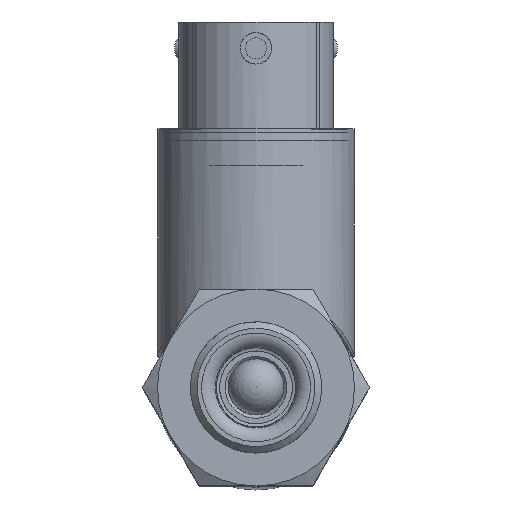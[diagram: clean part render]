
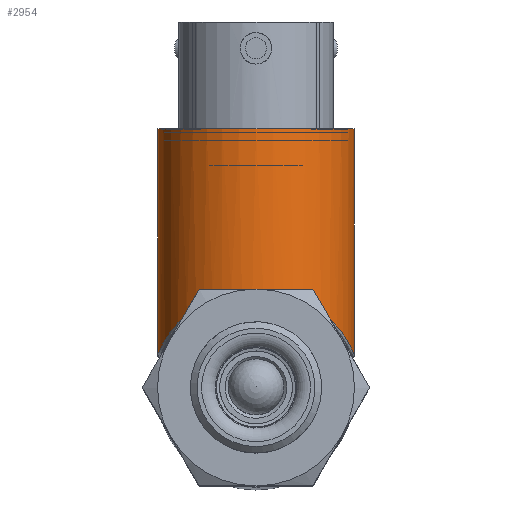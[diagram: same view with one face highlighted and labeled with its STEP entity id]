
A CAD part, top view. The second image highlights one B-rep face of the part: STEP entity #2954.
In plain terms, the highlighted cylindrical face has radius 9.525 mm (diameter 19.05 mm), a full revolution.
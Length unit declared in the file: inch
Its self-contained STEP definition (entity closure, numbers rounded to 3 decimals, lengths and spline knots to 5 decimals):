
#70=B_SPLINE_CURVE_WITH_KNOTS('',3,(#6759,#6760,#6761,#6762,#6763,#6764,
#6765,#6766,#6767,#6768,#6769,#6770,#6771,#6772,#6773,#6774,#6775,#6776,
#6777,#6778,#6779,#6780,#6781,#6782,#6783,#6784,#6785,#6786,#6787,#6788,
#6789),.UNSPECIFIED.,.F.,.F.,(4,1,1,1,1,1,1,1,1,1,1,1,1,1,1,1,1,1,1,1,1,
1,1,1,1,1,1,1,4),(-9.63701,-9.40756,-9.17811,
-8.7192,-8.41326,-8.26029,-8.10733,
-8.03084,-7.95436,-7.80139,-7.49545,
-7.18952,-6.88358,-6.57764,-6.27171,
-5.96577,-5.65983,-5.35389,-5.04796,-4.89499,
-4.81851,-4.74202,-4.58905,-4.43608,
-4.3596,-4.13015,-3.67124,-3.44179,
-3.21234),.UNSPECIFIED.);
#335=FACE_OUTER_BOUND('',#554,.T.);
#554=EDGE_LOOP('',(#2070,#2071,#2072,#2073));
#764=LINE('',#6839,#900);
#900=VECTOR('',#3920,0.375);
#1075=CIRCLE('',#3372,0.375);
#1282=VERTEX_POINT('',#6725);
#1286=VERTEX_POINT('',#6838);
#1573=EDGE_CURVE('',#1282,#1282,#70,.T.);
#1576=EDGE_CURVE('',#1286,#1282,#764,.T.);
#1577=EDGE_CURVE('',#1286,#1286,#1075,.T.);
#2070=ORIENTED_EDGE('',*,*,#1576,.F.);
#2071=ORIENTED_EDGE('',*,*,#1577,.F.);
#2072=ORIENTED_EDGE('',*,*,#1576,.T.);
#2073=ORIENTED_EDGE('',*,*,#1573,.F.);
#2653=CYLINDRICAL_SURFACE('',#3371,0.375);
#2954=ADVANCED_FACE('',(#335),#2653,.T.);
#3371=AXIS2_PLACEMENT_3D('',#6837,#3918,#3919);
#3372=AXIS2_PLACEMENT_3D('',#6840,#3921,#3922);
#3918=DIRECTION('center_axis',(0.,1.,0.));
#3919=DIRECTION('ref_axis',(0.,0.,1.));
#3920=DIRECTION('',(0.,-1.,0.));
#3921=DIRECTION('center_axis',(0.,1.,0.));
#3922=DIRECTION('ref_axis',(0.,0.,1.));
#6725=CARTESIAN_POINT('',(0.,0.3875,-2.84));
#6759=CARTESIAN_POINT('Ctrl Pts',(0.,0.3875,
-2.84));
#6760=CARTESIAN_POINT('Ctrl Pts',(0.03115,0.3875,
-2.84));
#6761=CARTESIAN_POINT('Ctrl Pts',(0.09334,0.38036,
-2.83213));
#6762=CARTESIAN_POINT('Ctrl Pts',(0.20461,0.34111,-2.78842));
#6763=CARTESIAN_POINT('Ctrl Pts',(0.29321,0.27239,-2.71028));
#6764=CARTESIAN_POINT('Ctrl Pts',(0.34371,0.20217,-2.62172));
#6765=CARTESIAN_POINT('Ctrl Pts',(0.36561,0.15994,-2.55434));
#6766=CARTESIAN_POINT('Ctrl Pts',(0.37367,0.14038,-2.50654));
#6767=CARTESIAN_POINT('Ctrl Pts',(0.37544,0.13579,-2.465));
#6768=CARTESIAN_POINT('Ctrl Pts',(0.37368,0.14034,-2.42339));
#6769=CARTESIAN_POINT('Ctrl Pts',(0.36229,0.16812,-2.35673));
#6770=CARTESIAN_POINT('Ctrl Pts',(0.32972,0.22603,-2.27723));
#6771=CARTESIAN_POINT('Ctrl Pts',(0.26718,0.29407,-2.19479));
#6772=CARTESIAN_POINT('Ctrl Pts',(0.17866,0.35266,-2.1287));
#6773=CARTESIAN_POINT('Ctrl Pts',(0.06405,0.38891,-2.0884));
#6774=CARTESIAN_POINT('Ctrl Pts',(-0.06403,0.38898,
-2.08835));
#6775=CARTESIAN_POINT('Ctrl Pts',(-0.17871,0.35264,
-2.1287));
#6776=CARTESIAN_POINT('Ctrl Pts',(-0.26716,0.29414,
-2.1948));
#6777=CARTESIAN_POINT('Ctrl Pts',(-0.32974,0.22598,-2.27723));
#6778=CARTESIAN_POINT('Ctrl Pts',(-0.36229,0.16811,
-2.35679));
#6779=CARTESIAN_POINT('Ctrl Pts',(-0.37368,0.14035,
-2.42342));
#6780=CARTESIAN_POINT('Ctrl Pts',(-0.37544,0.1358,-2.46502));
#6781=CARTESIAN_POINT('Ctrl Pts',(-0.37367,0.14039,
-2.50657));
#6782=CARTESIAN_POINT('Ctrl Pts',(-0.36558,0.15998,
-2.55433));
#6783=CARTESIAN_POINT('Ctrl Pts',(-0.35195,0.18625,
-2.59643));
#6784=CARTESIAN_POINT('Ctrl Pts',(-0.33102,0.21985,-2.6439));
#6785=CARTESIAN_POINT('Ctrl Pts',(-0.28642,0.27757,
-2.71624));
#6786=CARTESIAN_POINT('Ctrl Pts',(-0.20457,0.3412,
-2.78851));
#6787=CARTESIAN_POINT('Ctrl Pts',(-0.09335,0.38032,
-2.83208));
#6788=CARTESIAN_POINT('Ctrl Pts',(-0.03115,0.3875,
-2.84));
#6789=CARTESIAN_POINT('Ctrl Pts',(0.,0.3875,
-2.84));
#6837=CARTESIAN_POINT('Origin',(0.,0.47,
-2.465));
#6838=CARTESIAN_POINT('',(0.,1.,-2.84));
#6839=CARTESIAN_POINT('',(0.,0.47,-2.84));
#6840=CARTESIAN_POINT('Origin',(0.,1.,
-2.465));
